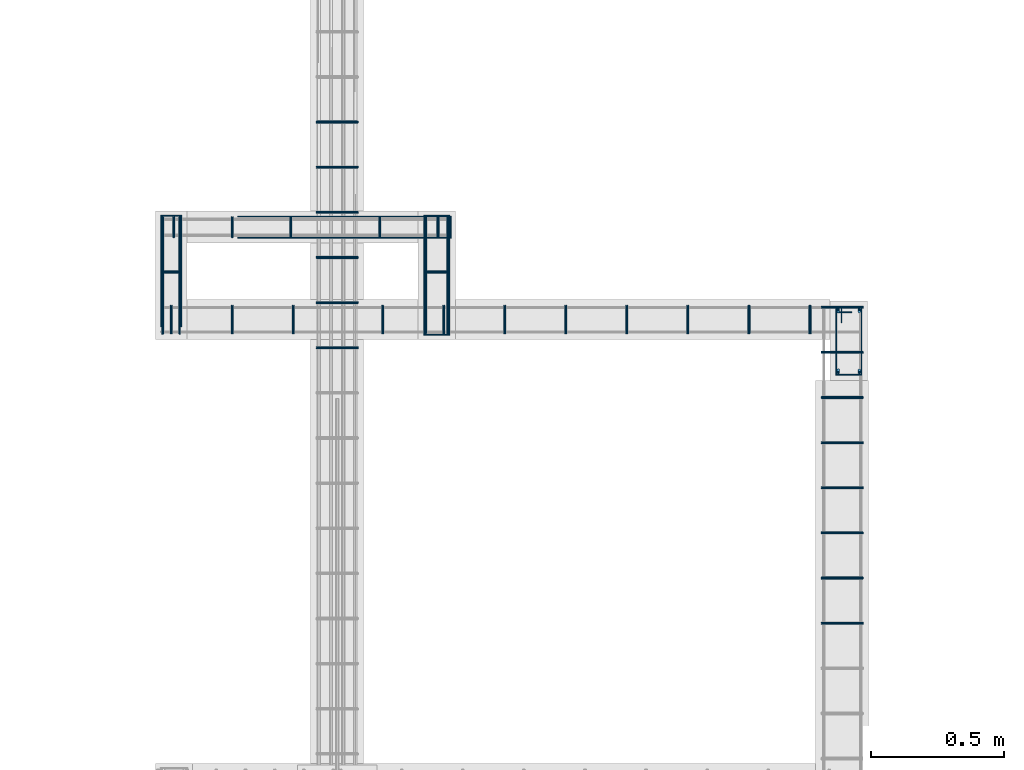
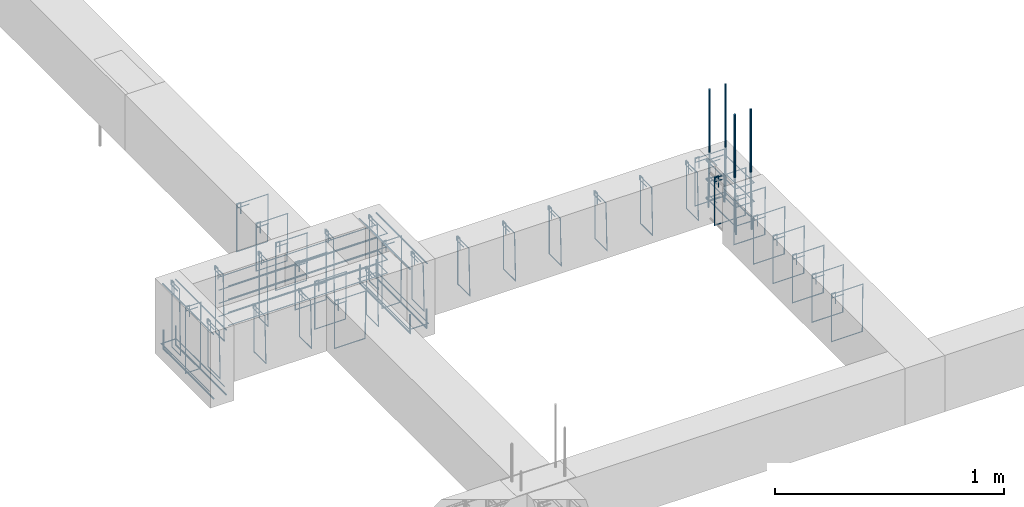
# One storey, part 75 of 150: 54 reinforcing bars.
"""IFC4 building model written with IfcOpenShell, lengths in centimetres."""

from ifc_helpers import new_model, entity, si_unit, derived_unit, frame, origin_with_axes, place, context, project, spatial, source, transform, mapped, element, save


model = new_model("IFC4")

# Units and contexts
model_context = context("Model", 3, precision=1e-05, world=origin_with_axes(), identifier="Body")
ifc_project = project(units=[si_unit("LENGTHUNIT", "METRE", prefix="CENTI"), si_unit("VOLUMEUNIT", "CUBIC_METRE"), si_unit("AREAUNIT", "SQUARE_METRE"), si_unit("POWERUNIT", "WATT"), si_unit("LUMINOUSFLUXUNIT", "LUMEN"), si_unit("ELECTRICCURRENTUNIT", "AMPERE"), si_unit("PRESSUREUNIT", "PASCAL", prefix="KILO"), si_unit("MASSUNIT", "GRAM", prefix="KILO"), si_unit("PLANEANGLEUNIT", "RADIAN"), derived_unit("VOLUMETRICFLOWRATEUNIT", [(si_unit("LENGTHUNIT", "METRE"), 3), (si_unit("TIMEUNIT", "SECOND"), -1)])], contexts=[model_context])

# Site, building, storey
site_placement = place(None, frame((-4000.0, 0.0, 0.0), z_axis=(0.0, 0.0, 1.0), x_axis=(1.0, 0.0, 0.0)))
site = spatial("IfcSite", under=ifc_project, at=site_placement, Name="PADRÃO")
building_placement = place(site_placement, frame((0.0, 0.0, -14.0)))
building = spatial("IfcBuilding", under=site, at=building_placement, Name="CRECHE PRÉ-ESCOLA TIPO 2")
placement = place(building_placement, origin_with_axes())
storey_placement = place(placement, frame((0.0, 0.0, 30.0), z_axis=(0.0, 0.0, 1.0), x_axis=(1.0, 0.0, 0.0)))
storey = spatial("IfcBuildingStorey", under=building, at=storey_placement, Name="VIGA BALDRAME", CompositionType="ELEMENT", Elevation=16.0)

# Reinforcing bars
shared_shape_1 = source(origin_with_axes(), model_context, "Body", "AdvancedSweptSolid", [
    entity("IfcSweptDiskSolid", entity("IfcCompositeCurve", [entity("IfcCompositeCurveSegment", "CONTINUOUS", True, entity("IfcPolyline", [entity("IfcCartesianPoint", [4.25, 21.75, 0.0]), entity("IfcCartesianPoint", [4.25, 27.75, 0.0])])), entity("IfcCompositeCurveSegment", "CONTINUOUS", True, entity("IfcPolyline", [entity("IfcCartesianPoint", [4.25, 27.75, 0.0]), entity("IfcCartesianPoint", [2.25, 27.75, 0.0])])), entity("IfcCompositeCurveSegment", "CONTINUOUS", True, entity("IfcPolyline", [entity("IfcCartesianPoint", [2.25, 27.75, 0.0]), entity("IfcCartesianPoint", [2.25, 2.25, 0.0])])), entity("IfcCompositeCurveSegment", "CONTINUOUS", True, entity("IfcPolyline", [entity("IfcCartesianPoint", [2.25, 2.25, 0.0]), entity("IfcCartesianPoint", [11.75, 2.25, 0.0])])), entity("IfcCompositeCurveSegment", "CONTINUOUS", True, entity("IfcPolyline", [entity("IfcCartesianPoint", [11.75, 2.25, 0.0]), entity("IfcCartesianPoint", [11.75, 27.75, -0.5])])), entity("IfcCompositeCurveSegment", "CONTINUOUS", True, entity("IfcPolyline", [entity("IfcCartesianPoint", [11.75, 27.75, -0.5]), entity("IfcCartesianPoint", [2.25, 27.75, -0.5])])), entity("IfcCompositeCurveSegment", "CONTINUOUS", True, entity("IfcPolyline", [entity("IfcCartesianPoint", [2.25, 27.75, -0.5]), entity("IfcCartesianPoint", [2.25, 25.75, -0.5])])), entity("IfcCompositeCurveSegment", "CONTINUOUS", True, entity("IfcPolyline", [entity("IfcCartesianPoint", [2.25, 25.75, -0.5]), entity("IfcCartesianPoint", [8.25, 25.75, -0.5])]))], False), 0.25),
])
for number, where, z_axis, x_axis, name in (
    (1, (2711.75, 1899.52, -5.0), (0.0, 0.0, 1.0), (1.0, 0.0, 0.0), "P90 - Estribo"),
    (2, (2711.75, 1899.52, -25.0), (0.0, 0.0, 1.0), (1.0, 0.0, 0.0), "P90 - Estribo"),
    (3, (2711.75, 1899.52, -15.0), (0.0, 0.0, 1.0), (1.0, 0.0, 0.0), "P90 - Estribo"),
):
    element("IfcReinforcingBar", number, at=place(storey_placement, frame(where, z_axis=z_axis, x_axis=x_axis)), inside=storey, Name=name, BarLength=0.0, CrossSectionArea=1.9634954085e-05, NominalDiameter=0.5, PredefinedType="MAIN", context=model_context, shape_type="MappedRepresentation", body=[
        mapped(shared_shape_1, transform((0.0, 0.0, 0.0), scale=1.0)),
    ])
shared_shape_2 = source(origin_with_axes(), model_context, "Body", "AdvancedSweptSolid", [
    entity("IfcSweptDiskSolid", entity("IfcCompositeCurve", [entity("IfcCompositeCurveSegment", "CONTINUOUS", True, entity("IfcPolyline", [entity("IfcCartesianPoint", [2.0, -6.0, 0.0]), entity("IfcCartesianPoint", [2.0, 0.0, 0.0])])), entity("IfcCompositeCurveSegment", "CONTINUOUS", True, entity("IfcPolyline", [entity("IfcCartesianPoint", [2.0, 0.0, 0.0]), entity("IfcCartesianPoint", [0.0, 0.0, 0.0])])), entity("IfcCompositeCurveSegment", "CONTINUOUS", True, entity("IfcPolyline", [entity("IfcCartesianPoint", [0.0, 0.0, 0.0]), entity("IfcCartesianPoint", [0.0, -25.5, 0.0])])), entity("IfcCompositeCurveSegment", "CONTINUOUS", True, entity("IfcPolyline", [entity("IfcCartesianPoint", [0.0, -25.5, 0.0]), entity("IfcCartesianPoint", [15.5, -25.5, 0.0])])), entity("IfcCompositeCurveSegment", "CONTINUOUS", True, entity("IfcPolyline", [entity("IfcCartesianPoint", [15.5, -25.5, 0.0]), entity("IfcCartesianPoint", [15.5, 0.0, 0.5])])), entity("IfcCompositeCurveSegment", "CONTINUOUS", True, entity("IfcPolyline", [entity("IfcCartesianPoint", [15.5, 0.0, 0.5]), entity("IfcCartesianPoint", [0.0, 0.0, 0.5])])), entity("IfcCompositeCurveSegment", "CONTINUOUS", True, entity("IfcPolyline", [entity("IfcCartesianPoint", [0.0, 0.0, 0.5]), entity("IfcCartesianPoint", [0.0, -2.0, 0.5])])), entity("IfcCompositeCurveSegment", "CONTINUOUS", True, entity("IfcPolyline", [entity("IfcCartesianPoint", [0.0, -2.0, 0.5]), entity("IfcCartesianPoint", [6.0, -2.0, 0.5])]))], False), 0.25),
])
for number, where, z_axis, x_axis, name in (
    (4, (2518.25, 1997.18, -2.25), (0.0, -1.0, 0.0), (1.0, 0.0, 0.0), "V196 - Estribo"),
    (5, (2518.25, 1980.18, -2.25), (0.0, -1.0, 0.0), (1.0, 0.0, 0.0), "V196 - Estribo"),
    (6, (2518.25, 1963.18, -2.25), (0.0, -1.0, 0.0), (1.0, 0.0, 0.0), "V196 - Estribo"),
    (7, (2518.25, 1946.18, -2.25), (0.0, -1.0, 0.0), (1.0, 0.0, 0.0), "V196 - Estribo"),
    (8, (2518.25, 1929.18, -2.25), (0.0, -1.0, 0.0), (1.0, 0.0, 0.0), "V196 - Estribo"),
    (9, (2518.25, 1912.18, -2.25), (0.0, -1.0, 0.0), (1.0, 0.0, 0.0), "V196 - Estribo"),
):
    element("IfcReinforcingBar", number, at=place(storey_placement, frame(where, z_axis=z_axis, x_axis=x_axis)), inside=storey, Name=name, BarLength=0.0, CrossSectionArea=1.9634954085e-05, NominalDiameter=0.5, PredefinedType="MAIN", context=model_context, shape_type="MappedRepresentation", body=[
        mapped(shared_shape_2, transform((0.0, 0.0, 0.0), scale=1.0)),
    ])
shared_shape_3 = source(origin_with_axes(), model_context, "Body", "AdvancedSweptSolid", [
    entity("IfcSweptDiskSolid", entity("IfcCompositeCurve", [entity("IfcCompositeCurveSegment", "CONTINUOUS", True, entity("IfcPolyline", [entity("IfcCartesianPoint", [2.0, -6.0, 0.0]), entity("IfcCartesianPoint", [2.0, 0.0, 0.0])])), entity("IfcCompositeCurveSegment", "CONTINUOUS", True, entity("IfcPolyline", [entity("IfcCartesianPoint", [2.0, 0.0, 0.0]), entity("IfcCartesianPoint", [0.0, 0.0, 0.0])])), entity("IfcCompositeCurveSegment", "CONTINUOUS", True, entity("IfcPolyline", [entity("IfcCartesianPoint", [0.0, 0.0, 0.0]), entity("IfcCartesianPoint", [0.0, -25.5, 0.0])])), entity("IfcCompositeCurveSegment", "CONTINUOUS", True, entity("IfcPolyline", [entity("IfcCartesianPoint", [0.0, -25.5, 0.0]), entity("IfcCartesianPoint", [15.5, -25.5, 0.0])])), entity("IfcCompositeCurveSegment", "CONTINUOUS", True, entity("IfcPolyline", [entity("IfcCartesianPoint", [15.5, -25.5, 0.0]), entity("IfcCartesianPoint", [15.5, 0.0, 0.5])])), entity("IfcCompositeCurveSegment", "CONTINUOUS", True, entity("IfcPolyline", [entity("IfcCartesianPoint", [15.5, 0.0, 0.5]), entity("IfcCartesianPoint", [0.0, 0.0, 0.5])])), entity("IfcCompositeCurveSegment", "CONTINUOUS", True, entity("IfcPolyline", [entity("IfcCartesianPoint", [0.0, 0.0, 0.5]), entity("IfcCartesianPoint", [0.0, -2.0, 0.5])])), entity("IfcCompositeCurveSegment", "CONTINUOUS", True, entity("IfcPolyline", [entity("IfcCartesianPoint", [0.0, -2.0, 0.5]), entity("IfcCartesianPoint", [6.0, -2.0, 0.5])]))], False), 0.25),
])
for number, where, z_axis, x_axis, name in (
    (10, (2708.5, 1859.43, -2.25), (0.0, -1.0, 0.0), (1.0, 0.0, 0.0), "V205 - Estribo"),
    (11, (2708.5, 1876.43, -2.25), (0.0, -1.0, 0.0), (1.0, 0.0, 0.0), "V205 - Estribo"),
    (12, (2708.5, 1893.43, -2.25), (0.0, -1.0, 0.0), (1.0, 0.0, 0.0), "V205 - Estribo"),
    (13, (2708.5, 1910.43, -2.25), (0.0, -1.0, 0.0), (1.0, 0.0, 0.0), "V205 - Estribo"),
    (14, (2708.5, 1842.43, -2.25), (0.0, -1.0, 0.0), (1.0, 0.0, 0.0), "V205 - Estribo"),
    (15, (2708.5, 1927.43, -2.25), (0.0, -1.0, 0.0), (1.0, 0.0, 0.0), "V205 - Estribo"),
    (16, (2708.5, 1808.43, -2.25), (0.0, -1.0, 0.0), (1.0, 0.0, 0.0), "V205 - Estribo"),
    (17, (2708.5, 1825.43, -2.25), (0.0, -1.0, 0.0), (1.0, 0.0, 0.0), "V205 - Estribo"),
):
    element("IfcReinforcingBar", number, at=place(storey_placement, frame(where, z_axis=z_axis, x_axis=x_axis)), inside=storey, Name=name, BarLength=0.0, CrossSectionArea=1.9634954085e-05, NominalDiameter=0.5, PredefinedType="MAIN", context=model_context, shape_type="MappedRepresentation", body=[
        mapped(shared_shape_3, transform((0.0, 0.0, 0.0), scale=1.0)),
    ])
shared_shape_4 = source(origin_with_axes(), model_context, "Body", "AdvancedSweptSolid", [
    entity("IfcSweptDiskSolid", entity("IfcCompositeCurve", [entity("IfcCompositeCurveSegment", "CONTINUOUS", True, entity("IfcPolyline", [entity("IfcCartesianPoint", [2.0, -6.0, 0.0]), entity("IfcCartesianPoint", [2.0, 0.0, 0.0])])), entity("IfcCompositeCurveSegment", "CONTINUOUS", True, entity("IfcPolyline", [entity("IfcCartesianPoint", [2.0, 0.0, 0.0]), entity("IfcCartesianPoint", [0.0, 0.0, 0.0])])), entity("IfcCompositeCurveSegment", "CONTINUOUS", True, entity("IfcPolyline", [entity("IfcCartesianPoint", [0.0, 0.0, 0.0]), entity("IfcCartesianPoint", [0.0, -35.5, 0.0])])), entity("IfcCompositeCurveSegment", "CONTINUOUS", True, entity("IfcPolyline", [entity("IfcCartesianPoint", [0.0, -35.5, 0.0]), entity("IfcCartesianPoint", [7.5, -35.5, 0.0])])), entity("IfcCompositeCurveSegment", "CONTINUOUS", True, entity("IfcPolyline", [entity("IfcCartesianPoint", [7.5, -35.5, 0.0]), entity("IfcCartesianPoint", [7.5, 0.0, 0.5])])), entity("IfcCompositeCurveSegment", "CONTINUOUS", True, entity("IfcPolyline", [entity("IfcCartesianPoint", [7.5, 0.0, 0.5]), entity("IfcCartesianPoint", [0.0, 0.0, 0.5])])), entity("IfcCompositeCurveSegment", "CONTINUOUS", True, entity("IfcPolyline", [entity("IfcCartesianPoint", [0.0, 0.0, 0.5]), entity("IfcCartesianPoint", [0.0, -2.0, 0.5])])), entity("IfcCompositeCurveSegment", "CONTINUOUS", True, entity("IfcPolyline", [entity("IfcCartesianPoint", [0.0, -2.0, 0.5]), entity("IfcCartesianPoint", [6.0, -2.0, 0.5])]))], False), 0.25),
])
for number, where, z_axis, x_axis, name in (
    (18, (2508.75, 1961.1, -2.25), (-1.0, 0.0, 0.0), (0.0, -1.0, 0.0), "V126 - Estribo"),
    (19, (2464.75, 1961.1, -2.25), (-1.0, 0.0, 0.0), (0.0, -1.0, 0.0), "V126 - Estribo"),
    (20, (2486.75, 1961.1, -2.25), (-1.0, 0.0, 0.0), (0.0, -1.0, 0.0), "V126 - Estribo"),
):
    element("IfcReinforcingBar", number, at=place(storey_placement, frame(where, z_axis=z_axis, x_axis=x_axis)), inside=storey, Name=name, BarLength=0.0, CrossSectionArea=1.9634954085e-05, NominalDiameter=0.5, PredefinedType="MAIN", context=model_context, shape_type="MappedRepresentation", body=[
        mapped(shared_shape_4, transform((0.0, 0.0, 0.0), scale=1.0)),
    ])
shared_shape_5 = source(origin_with_axes(), model_context, "Body", "AdvancedSweptSolid", [
    entity("IfcSweptDiskSolid", entity("IfcCompositeCurve", [entity("IfcCompositeCurveSegment", "CONTINUOUS", True, entity("IfcPolyline", [entity("IfcCartesianPoint", [2.0, -6.0, 0.0]), entity("IfcCartesianPoint", [2.0, 0.0, 0.0])])), entity("IfcCompositeCurveSegment", "CONTINUOUS", True, entity("IfcPolyline", [entity("IfcCartesianPoint", [2.0, 0.0, 0.0]), entity("IfcCartesianPoint", [0.0, 0.0, 0.0])])), entity("IfcCompositeCurveSegment", "CONTINUOUS", True, entity("IfcPolyline", [entity("IfcCartesianPoint", [0.0, 0.0, 0.0]), entity("IfcCartesianPoint", [0.0, -35.5, 0.0])])), entity("IfcCompositeCurveSegment", "CONTINUOUS", True, entity("IfcPolyline", [entity("IfcCartesianPoint", [0.0, -35.5, 0.0]), entity("IfcCartesianPoint", [7.5, -35.5, 0.0])])), entity("IfcCompositeCurveSegment", "CONTINUOUS", True, entity("IfcPolyline", [entity("IfcCartesianPoint", [7.5, -35.5, 0.0]), entity("IfcCartesianPoint", [7.5, 0.0, 0.5])])), entity("IfcCompositeCurveSegment", "CONTINUOUS", True, entity("IfcPolyline", [entity("IfcCartesianPoint", [7.5, 0.0, 0.5]), entity("IfcCartesianPoint", [0.0, 0.0, 0.5])])), entity("IfcCompositeCurveSegment", "CONTINUOUS", True, entity("IfcPolyline", [entity("IfcCartesianPoint", [0.0, 0.0, 0.5]), entity("IfcCartesianPoint", [0.0, -2.0, 0.5])])), entity("IfcCompositeCurveSegment", "CONTINUOUS", True, entity("IfcPolyline", [entity("IfcCartesianPoint", [0.0, -2.0, 0.5]), entity("IfcCartesianPoint", [6.0, -2.0, 0.5])]))], False), 0.25),
])
for number, where, z_axis, x_axis, name in (
    (21, (2564.25, 1961.1, -2.25), (-1.0, 0.0, 0.0), (0.0, -1.0, 0.0), "V126 - Estribo"),
    (22, (2542.25, 1961.1, -2.25), (-1.0, 0.0, 0.0), (0.0, -1.0, 0.0), "V126 - Estribo"),
):
    element("IfcReinforcingBar", number, at=place(storey_placement, frame(where, z_axis=z_axis, x_axis=x_axis)), inside=storey, Name=name, BarLength=0.0, CrossSectionArea=1.9634954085e-05, NominalDiameter=0.5, PredefinedType="MAIN", context=model_context, shape_type="MappedRepresentation", body=[
        mapped(shared_shape_5, transform((0.0, 0.0, 0.0), scale=1.0)),
    ])
shared_shape_6 = source(origin_with_axes(), model_context, "Body", "AdvancedSweptSolid", [
    entity("IfcSweptDiskSolid", entity("IfcCompositeCurve", [entity("IfcCompositeCurveSegment", "CONTINUOUS", True, entity("IfcPolyline", [entity("IfcCartesianPoint", [0.0, 0.0, 0.0]), entity("IfcCartesianPoint", [80.2013828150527, 0.0, 0.0])])), entity("IfcCompositeCurveSegment", "CONTINUOUS", True, entity("IfcPolyline", [entity("IfcCartesianPoint", [80.2013828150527, 0.0, 0.0]), entity("IfcCartesianPoint", [80.2013828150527, 8.0, 0.0])])), entity("IfcCompositeCurveSegment", "CONTINUOUS", True, entity("IfcPolyline", [entity("IfcCartesianPoint", [80.2013828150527, 8.0, 0.0]), entity("IfcCartesianPoint", [0.0, 8.0, 0.0])]))], False), 0.25),
])
for number, where, z_axis, x_axis, name in (
    (23, (2488.54861718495, 1953.35, -30.1), (0.0, 0.0, 1.0), (1.0, 0.0, 0.0), "V126 - Grampo"),
    (24, (2488.54861718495, 1953.35, -16.1), (0.0, 0.0, 1.0), (1.0, 0.0, 0.0), "V126 - Grampo"),
    (25, (2488.54861718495, 1953.35, -23.1), (0.0, 0.0, 1.0), (1.0, 0.0, 0.0), "V126 - Grampo"),
    (26, (2488.54861718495, 1953.35, -9.1), (0.0, 0.0, 1.0), (1.0, 0.0, 0.0), "V126 - Grampo"),
):
    element("IfcReinforcingBar", number, at=place(storey_placement, frame(where, z_axis=z_axis, x_axis=x_axis)), inside=storey, Name=name, BarLength=0.0, CrossSectionArea=1.9634954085e-05, NominalDiameter=0.5, PredefinedType="MAIN", context=model_context, shape_type="MappedRepresentation", body=[
        mapped(shared_shape_6, transform((0.0, 0.0, 0.0), scale=1.0)),
    ])
shared_shape_7 = source(origin_with_axes(), model_context, "Body", "AdvancedSweptSolid", [
    entity("IfcSweptDiskSolid", entity("IfcCompositeCurve", [entity("IfcCompositeCurveSegment", "CONTINUOUS", True, entity("IfcPolyline", [entity("IfcCartesianPoint", [2.0, -6.0, 0.0]), entity("IfcCartesianPoint", [2.0, 0.0, 0.0])])), entity("IfcCompositeCurveSegment", "CONTINUOUS", True, entity("IfcPolyline", [entity("IfcCartesianPoint", [2.0, 0.0, 0.0]), entity("IfcCartesianPoint", [0.0, 0.0, 0.0])])), entity("IfcCompositeCurveSegment", "CONTINUOUS", True, entity("IfcPolyline", [entity("IfcCartesianPoint", [0.0, 0.0, 0.0]), entity("IfcCartesianPoint", [0.0, -35.5, 0.0])])), entity("IfcCompositeCurveSegment", "CONTINUOUS", True, entity("IfcPolyline", [entity("IfcCartesianPoint", [0.0, -35.5, 0.0]), entity("IfcCartesianPoint", [7.5, -35.5, 0.0])])), entity("IfcCompositeCurveSegment", "CONTINUOUS", True, entity("IfcPolyline", [entity("IfcCartesianPoint", [7.5, -35.5, 0.0]), entity("IfcCartesianPoint", [7.5, 0.0, 0.5])])), entity("IfcCompositeCurveSegment", "CONTINUOUS", True, entity("IfcPolyline", [entity("IfcCartesianPoint", [7.5, 0.0, 0.5]), entity("IfcCartesianPoint", [0.0, 0.0, 0.5])])), entity("IfcCompositeCurveSegment", "CONTINUOUS", True, entity("IfcPolyline", [entity("IfcCartesianPoint", [0.0, 0.0, 0.5]), entity("IfcCartesianPoint", [0.0, -2.0, 0.5])])), entity("IfcCompositeCurveSegment", "CONTINUOUS", True, entity("IfcPolyline", [entity("IfcCartesianPoint", [0.0, -2.0, 0.5]), entity("IfcCartesianPoint", [6.0, -2.0, 0.5])]))], False), 0.25),
])
reinforcing_bar_1_placement = place(storey_placement, frame((2459.75, 1940.685, -2.25), z_axis=(0.0, -1.0, 0.0), x_axis=(1.0, 0.0, 0.0)))
element("IfcReinforcingBar", 27, at=reinforcing_bar_1_placement, inside=storey, Name="V195 - Estribo", BarLength=0.0, CrossSectionArea=1.9634954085e-05, NominalDiameter=0.5, PredefinedType="MAIN", context=model_context, shape_type="MappedRepresentation", body=[
    mapped(shared_shape_7, transform((0.0, 0.0, 0.0), scale=1.0)),
])
shared_shape_8 = source(origin_with_axes(), model_context, "Body", "AdvancedSweptSolid", [
    entity("IfcSweptDiskSolid", entity("IfcCompositeCurve", [entity("IfcCompositeCurveSegment", "CONTINUOUS", True, entity("IfcPolyline", [entity("IfcCartesianPoint", [0.0, 0.0, 0.0]), entity("IfcCartesianPoint", [0.0, 41.9159679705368, 0.0])])), entity("IfcCompositeCurveSegment", "CONTINUOUS", True, entity("IfcPolyline", [entity("IfcCartesianPoint", [0.0, 41.9159679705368, 0.0]), entity("IfcCartesianPoint", [-7.5, 41.9159679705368, 0.0])])), entity("IfcCompositeCurveSegment", "CONTINUOUS", True, entity("IfcPolyline", [entity("IfcCartesianPoint", [-7.5, 41.9159679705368, 0.0]), entity("IfcCartesianPoint", [-7.5, 0.0, 0.0])]))], False), 0.25),
])
reinforcing_bar_2_placement = place(storey_placement, frame((2467.25, 1919.68403202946, -34.6), z_axis=(0.0, 0.0, 1.0), x_axis=(1.0, 0.0, 0.0)))
element("IfcReinforcingBar", 28, at=reinforcing_bar_2_placement, inside=storey, Name="V195 - Grampo", BarLength=0.0, CrossSectionArea=1.9634954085e-05, NominalDiameter=0.5, PredefinedType="MAIN", context=model_context, shape_type="MappedRepresentation", body=[
    mapped(shared_shape_8, transform((0.0, 0.0, 0.0), scale=1.0)),
])
shared_shape_9 = source(origin_with_axes(), model_context, "Body", "AdvancedSweptSolid", [
    entity("IfcSweptDiskSolid", entity("IfcCompositeCurve", [entity("IfcCompositeCurveSegment", "CONTINUOUS", True, entity("IfcPolyline", [entity("IfcCartesianPoint", [2.0, -6.0, 0.0]), entity("IfcCartesianPoint", [2.0, 0.0, 0.0])])), entity("IfcCompositeCurveSegment", "CONTINUOUS", True, entity("IfcPolyline", [entity("IfcCartesianPoint", [2.0, 0.0, 0.0]), entity("IfcCartesianPoint", [0.0, 0.0, 0.0])])), entity("IfcCompositeCurveSegment", "CONTINUOUS", True, entity("IfcPolyline", [entity("IfcCartesianPoint", [0.0, 0.0, 0.0]), entity("IfcCartesianPoint", [0.0, -35.5, 0.0])])), entity("IfcCompositeCurveSegment", "CONTINUOUS", True, entity("IfcPolyline", [entity("IfcCartesianPoint", [0.0, -35.5, 0.0]), entity("IfcCartesianPoint", [9.5, -35.5, 0.0])])), entity("IfcCompositeCurveSegment", "CONTINUOUS", True, entity("IfcPolyline", [entity("IfcCartesianPoint", [9.5, -35.5, 0.0]), entity("IfcCartesianPoint", [9.5, 0.0, 0.5])])), entity("IfcCompositeCurveSegment", "CONTINUOUS", True, entity("IfcPolyline", [entity("IfcCartesianPoint", [9.5, 0.0, 0.5]), entity("IfcCartesianPoint", [0.0, 0.0, 0.5])])), entity("IfcCompositeCurveSegment", "CONTINUOUS", True, entity("IfcPolyline", [entity("IfcCartesianPoint", [0.0, 0.0, 0.5]), entity("IfcCartesianPoint", [0.0, -2.0, 0.5])])), entity("IfcCompositeCurveSegment", "CONTINUOUS", True, entity("IfcPolyline", [entity("IfcCartesianPoint", [0.0, -2.0, 0.5]), entity("IfcCartesianPoint", [6.0, -2.0, 0.5])]))], False), 0.25),
])
reinforcing_bar_3_placement = place(storey_placement, frame((2558.75, 1940.685, -2.25), z_axis=(0.0, -1.0, 0.0), x_axis=(1.0, 0.0, 0.0)))
element("IfcReinforcingBar", 29, at=reinforcing_bar_3_placement, inside=storey, Name="V197 - Estribo", BarLength=0.0, CrossSectionArea=1.9634954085e-05, NominalDiameter=0.5, PredefinedType="MAIN", context=model_context, shape_type="MappedRepresentation", body=[
    mapped(shared_shape_9, transform((0.0, 0.0, 0.0), scale=1.0)),
])
shared_shape_10 = source(origin_with_axes(), model_context, "Body", "AdvancedSweptSolid", [
    entity("IfcSweptDiskSolid", entity("IfcCompositeCurve", [entity("IfcCompositeCurveSegment", "CONTINUOUS", True, entity("IfcPolyline", [entity("IfcCartesianPoint", [0.0, 0.0, 0.0]), entity("IfcCartesianPoint", [0.0, -44.9159679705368, 0.0])])), entity("IfcCompositeCurveSegment", "CONTINUOUS", True, entity("IfcPolyline", [entity("IfcCartesianPoint", [0.0, -44.9159679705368, 0.0]), entity("IfcCartesianPoint", [9.5, -44.9159679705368, 0.0])])), entity("IfcCompositeCurveSegment", "CONTINUOUS", True, entity("IfcPolyline", [entity("IfcCartesianPoint", [9.5, -44.9159679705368, 0.0]), entity("IfcCartesianPoint", [9.5, 0.0, 0.0])]))], False), 0.25),
])
reinforcing_bar_4_placement = place(storey_placement, frame((2558.75, 1961.68596797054, -34.6), z_axis=(0.0, 0.0, 1.0), x_axis=(1.0, 0.0, 0.0)))
element("IfcReinforcingBar", 30, at=reinforcing_bar_4_placement, inside=storey, Name="V197 - Grampo", BarLength=0.0, CrossSectionArea=1.9634954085e-05, NominalDiameter=0.5, PredefinedType="MAIN", context=model_context, shape_type="MappedRepresentation", body=[
    mapped(shared_shape_10, transform((0.0, 0.0, 0.0), scale=1.0)),
])
shared_shape_11 = source(origin_with_axes(), model_context, "Body", "AdvancedSweptSolid", [
    entity("IfcSweptDiskSolid", entity("IfcCompositeCurve", [entity("IfcCompositeCurveSegment", "CONTINUOUS", True, entity("IfcPolyline", [entity("IfcCartesianPoint", [0.0, 0.0, 0.0]), entity("IfcCartesianPoint", [0.0, 41.9159679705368, 0.0])])), entity("IfcCompositeCurveSegment", "CONTINUOUS", True, entity("IfcPolyline", [entity("IfcCartesianPoint", [0.0, 41.9159679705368, 0.0]), entity("IfcCartesianPoint", [-9.5, 41.9159679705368, 0.0])])), entity("IfcCompositeCurveSegment", "CONTINUOUS", True, entity("IfcPolyline", [entity("IfcCartesianPoint", [-9.5, 41.9159679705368, 0.0]), entity("IfcCartesianPoint", [-9.5, 0.0, 0.0])]))], False), 0.25),
])
reinforcing_bar_5_placement = place(storey_placement, frame((2568.25, 1919.68403202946, -34.6), z_axis=(0.0, 0.0, 1.0), x_axis=(1.0, 0.0, 0.0)))
element("IfcReinforcingBar", 31, at=reinforcing_bar_5_placement, inside=storey, Name="V197 - Grampo", BarLength=0.0, CrossSectionArea=1.9634954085e-05, NominalDiameter=0.5, PredefinedType="MAIN", context=model_context, shape_type="MappedRepresentation", body=[
    mapped(shared_shape_11, transform((0.0, 0.0, 0.0), scale=1.0)),
])
shared_shape_12 = source(origin_with_axes(), model_context, "Body", "AdvancedSweptSolid", [
    entity("IfcSweptDiskSolid", entity("IfcCompositeCurve", [entity("IfcCompositeCurveSegment", "CONTINUOUS", True, entity("IfcPolyline", [entity("IfcCartesianPoint", [2.0, -6.0, 0.0]), entity("IfcCartesianPoint", [2.0, 0.0, 0.0])])), entity("IfcCompositeCurveSegment", "CONTINUOUS", True, entity("IfcPolyline", [entity("IfcCartesianPoint", [2.0, 0.0, 0.0]), entity("IfcCartesianPoint", [0.0, 0.0, 0.0])])), entity("IfcCompositeCurveSegment", "CONTINUOUS", True, entity("IfcPolyline", [entity("IfcCartesianPoint", [0.0, 0.0, 0.0]), entity("IfcCartesianPoint", [0.0, -25.5, 0.0])])), entity("IfcCompositeCurveSegment", "CONTINUOUS", True, entity("IfcPolyline", [entity("IfcCartesianPoint", [0.0, -25.5, 0.0]), entity("IfcCartesianPoint", [10.5, -25.5, 0.0])])), entity("IfcCompositeCurveSegment", "CONTINUOUS", True, entity("IfcPolyline", [entity("IfcCartesianPoint", [10.5, -25.5, 0.0]), entity("IfcCartesianPoint", [10.5, 0.0, 0.5])])), entity("IfcCompositeCurveSegment", "CONTINUOUS", True, entity("IfcPolyline", [entity("IfcCartesianPoint", [10.5, 0.0, 0.5]), entity("IfcCartesianPoint", [0.0, 0.0, 0.5])])), entity("IfcCompositeCurveSegment", "CONTINUOUS", True, entity("IfcPolyline", [entity("IfcCartesianPoint", [0.0, 0.0, 0.5]), entity("IfcCartesianPoint", [0.0, -2.0, 0.5])])), entity("IfcCompositeCurveSegment", "CONTINUOUS", True, entity("IfcPolyline", [entity("IfcCartesianPoint", [0.0, -2.0, 0.5]), entity("IfcCartesianPoint", [6.0, -2.0, 0.5])]))], False), 0.25),
])
for number, where, z_axis, x_axis, name in (
    (32, (2463.75, 1927.77, -2.25), (-1.0, 0.0, 0.0), (0.0, -1.0, 0.0), "V127 - Estribo"),
    (33, (2486.75, 1927.77, -2.25), (-1.0, 0.0, 0.0), (0.0, -1.0, 0.0), "V127 - Estribo"),
    (34, (2509.75, 1927.77, -2.25), (-1.0, 0.0, 0.0), (0.0, -1.0, 0.0), "V127 - Estribo"),
):
    element("IfcReinforcingBar", number, at=place(storey_placement, frame(where, z_axis=z_axis, x_axis=x_axis)), inside=storey, Name=name, BarLength=0.0, CrossSectionArea=1.9634954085e-05, NominalDiameter=0.5, PredefinedType="MAIN", context=model_context, shape_type="MappedRepresentation", body=[
        mapped(shared_shape_12, transform((0.0, 0.0, 0.0), scale=1.0)),
    ])
shared_shape_13 = source(origin_with_axes(), model_context, "Body", "AdvancedSweptSolid", [
    entity("IfcSweptDiskSolid", entity("IfcCompositeCurve", [entity("IfcCompositeCurveSegment", "CONTINUOUS", True, entity("IfcPolyline", [entity("IfcCartesianPoint", [2.0, -6.0, 0.0]), entity("IfcCartesianPoint", [2.0, 0.0, 0.0])])), entity("IfcCompositeCurveSegment", "CONTINUOUS", True, entity("IfcPolyline", [entity("IfcCartesianPoint", [2.0, 0.0, 0.0]), entity("IfcCartesianPoint", [0.0, 0.0, 0.0])])), entity("IfcCompositeCurveSegment", "CONTINUOUS", True, entity("IfcPolyline", [entity("IfcCartesianPoint", [0.0, 0.0, 0.0]), entity("IfcCartesianPoint", [0.0, -25.5, 0.0])])), entity("IfcCompositeCurveSegment", "CONTINUOUS", True, entity("IfcPolyline", [entity("IfcCartesianPoint", [0.0, -25.5, 0.0]), entity("IfcCartesianPoint", [10.5, -25.5, 0.0])])), entity("IfcCompositeCurveSegment", "CONTINUOUS", True, entity("IfcPolyline", [entity("IfcCartesianPoint", [10.5, -25.5, 0.0]), entity("IfcCartesianPoint", [10.5, 0.0, 0.5])])), entity("IfcCompositeCurveSegment", "CONTINUOUS", True, entity("IfcPolyline", [entity("IfcCartesianPoint", [10.5, 0.0, 0.5]), entity("IfcCartesianPoint", [0.0, 0.0, 0.5])])), entity("IfcCompositeCurveSegment", "CONTINUOUS", True, entity("IfcPolyline", [entity("IfcCartesianPoint", [0.0, 0.0, 0.5]), entity("IfcCartesianPoint", [0.0, -2.0, 0.5])])), entity("IfcCompositeCurveSegment", "CONTINUOUS", True, entity("IfcPolyline", [entity("IfcCartesianPoint", [0.0, -2.0, 0.5]), entity("IfcCartesianPoint", [6.0, -2.0, 0.5])]))], False), 0.25),
])
for number, where, z_axis, x_axis, name in (
    (35, (2543.375, 1927.77, -2.25), (-1.0, 0.0, 0.0), (0.0, -1.0, 0.0), "V127 - Estribo"),
    (36, (2589.375, 1927.77, -2.25), (-1.0, 0.0, 0.0), (0.0, -1.0, 0.0), "V127 - Estribo"),
    (37, (2566.375, 1927.77, -2.25), (-1.0, 0.0, 0.0), (0.0, -1.0, 0.0), "V127 - Estribo"),
    (38, (2635.375, 1927.77, -2.25), (-1.0, 0.0, 0.0), (0.0, -1.0, 0.0), "V127 - Estribo"),
    (39, (2704.375, 1927.77, -2.25), (-1.0, 0.0, 0.0), (0.0, -1.0, 0.0), "V127 - Estribo"),
    (40, (2681.375, 1927.77, -2.25), (-1.0, 0.0, 0.0), (0.0, -1.0, 0.0), "V127 - Estribo"),
    (41, (2612.375, 1927.77, -2.25), (-1.0, 0.0, 0.0), (0.0, -1.0, 0.0), "V127 - Estribo"),
    (42, (2658.375, 1927.77, -2.25), (-1.0, 0.0, 0.0), (0.0, -1.0, 0.0), "V127 - Estribo"),
):
    element("IfcReinforcingBar", number, at=place(storey_placement, frame(where, z_axis=z_axis, x_axis=x_axis)), inside=storey, Name=name, BarLength=0.0, CrossSectionArea=1.9634954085e-05, NominalDiameter=0.5, PredefinedType="MAIN", context=model_context, shape_type="MappedRepresentation", body=[
        mapped(shared_shape_13, transform((0.0, 0.0, 0.0), scale=1.0)),
    ])
reinforcing_bar_6_placement = place(storey_placement, frame((2722.75, 1926.01986122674, 33.3573001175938), z_axis=(0.0, 0.0, 1.0), x_axis=(1.0, 0.0, 0.0)))
element("IfcReinforcingBar", 43, at=reinforcing_bar_6_placement, inside=storey, Name="P90 - Longitudinal", BarLength=0.0, CrossSectionArea=7.853981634e-05, NominalDiameter=1.0, PredefinedType="MAIN", context=model_context, shape_type="AdvancedSweptSolid", body=[
    entity("IfcSweptDiskSolid", entity("IfcCompositeCurve", [entity("IfcCompositeCurveSegment", "CONTINUOUS", True, entity("IfcPolyline", [entity("IfcCartesianPoint", [0.0, 0.50013877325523, -63.3573001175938]), entity("IfcCartesianPoint", [0.0, -0.49986122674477, -33.3573001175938])])), entity("IfcCompositeCurveSegment", "CONTINUOUS", True, entity("IfcPolyline", [entity("IfcCartesianPoint", [0.0, -0.49986122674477, -33.3573001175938]), entity("IfcCartesianPoint", [0.0, -0.49986122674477, 0.0])]))], False), 0.5),
])
for number, where, z_axis, x_axis, name in (
    (44, (2722.75, 1903.02013877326, 33.3573001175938), (0.0, 0.0, 1.0), (1.0, 0.0, 0.0), "P90 - Longitudinal"),
    (45, (2714.75, 1903.02013877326, 33.3573001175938), (0.0, 0.0, 1.0), (1.0, 0.0, 0.0), "P90 - Longitudinal"),
):
    element("IfcReinforcingBar", number, at=place(storey_placement, frame(where, z_axis=z_axis, x_axis=x_axis)), inside=storey, Name=name, BarLength=0.0, CrossSectionArea=7.853981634e-05, NominalDiameter=1.0, PredefinedType="MAIN", context=model_context, shape_type="AdvancedSweptSolid", body=[
        entity("IfcSweptDiskSolid", entity("IfcCompositeCurve", [entity("IfcCompositeCurveSegment", "CONTINUOUS", True, entity("IfcPolyline", [entity("IfcCartesianPoint", [0.0, -0.50013877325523, -63.3573001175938]), entity("IfcCartesianPoint", [0.0, 0.49986122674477, -33.3573001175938])])), entity("IfcCompositeCurveSegment", "CONTINUOUS", True, entity("IfcPolyline", [entity("IfcCartesianPoint", [0.0, 0.49986122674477, -33.3573001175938]), entity("IfcCartesianPoint", [0.0, 0.49986122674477, 0.0])]))], False), 0.5),
    ])
reinforcing_bar_7_placement = place(storey_placement, frame((2714.75, 1926.01986122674, 33.3573001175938), z_axis=(0.0, 0.0, 1.0), x_axis=(1.0, 0.0, 0.0)))
element("IfcReinforcingBar", 46, at=reinforcing_bar_7_placement, inside=storey, Name="P90 - Longitudinal", BarLength=0.0, CrossSectionArea=7.853981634e-05, NominalDiameter=1.0, PredefinedType="MAIN", context=model_context, shape_type="AdvancedSweptSolid", body=[
    entity("IfcSweptDiskSolid", entity("IfcCompositeCurve", [entity("IfcCompositeCurveSegment", "CONTINUOUS", True, entity("IfcPolyline", [entity("IfcCartesianPoint", [0.0, 0.50013877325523, -63.3573001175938]), entity("IfcCartesianPoint", [0.0, -0.49986122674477, -33.3573001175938])])), entity("IfcCompositeCurveSegment", "CONTINUOUS", True, entity("IfcPolyline", [entity("IfcCartesianPoint", [0.0, -0.49986122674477, -33.3573001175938]), entity("IfcCartesianPoint", [0.0, -0.49986122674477, 0.0])]))], False), 0.5),
])
for number, where, z_axis, x_axis, name in (
    (47, (2460.25, 1939.185, -2.5), (0.0, 0.0, 1.0), (1.0, 0.0, 0.0), "V195 - Longitudinal construtiva"),
    (48, (2466.75, 1939.185, -2.5), (0.0, 0.0, 1.0), (1.0, 0.0, 0.0), "V195 - Longitudinal construtiva"),
):
    element("IfcReinforcingBar", number, at=place(storey_placement, frame(where, z_axis=z_axis, x_axis=x_axis)), inside=storey, Name=name, BarLength=0.0, CrossSectionArea=1.9634954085e-05, NominalDiameter=0.5, PredefinedType="MAIN", context=model_context, shape_type="AdvancedSweptSolid", body=[
        entity("IfcSweptDiskSolid", entity("IfcCompositeCurve", [entity("IfcCompositeCurveSegment", "CONTINUOUS", True, entity("IfcPolyline", [entity("IfcCartesianPoint", [0.0, -22.165, -0.25]), entity("IfcCartesianPoint", [0.0, 22.165, -0.25])]))], False), 0.25),
    ])
for number, where, z_axis, x_axis, name in (
    (49, (2460.4, 1939.1868751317, -27.1), (0.0, 0.0, 1.0), (1.0, 0.0, 0.0), "V195 - Longitudinal inferior"),
    (50, (2466.6, 1939.1868751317, -27.1), (0.0, 0.0, 1.0), (1.0, 0.0, 0.0), "V195 - Longitudinal inferior"),
):
    element("IfcReinforcingBar", number, at=place(storey_placement, frame(where, z_axis=z_axis, x_axis=x_axis)), inside=storey, Name=name, BarLength=0.0, CrossSectionArea=5.0265482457e-05, NominalDiameter=0.8, PredefinedType="MAIN", context=model_context, shape_type="AdvancedSweptSolid", body=[
        entity("IfcSweptDiskSolid", entity("IfcCompositeCurve", [entity("IfcCompositeCurveSegment", "CONTINUOUS", True, entity("IfcPolyline", [entity("IfcCartesianPoint", [0.0, -22.1668751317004, -10.0]), entity("IfcCartesianPoint", [0.0, 21.7631248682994, -10.0])])), entity("IfcCompositeCurveSegment", "CONTINUOUS", True, entity("IfcPolyline", [entity("IfcCartesianPoint", [0.0, 21.7631248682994, -10.0]), entity("IfcCartesianPoint", [0.0, 21.7631248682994, 0.0])]))], False), 0.4),
    ])
for number, where, z_axis, x_axis, name in (
    (51, (2559.25, 1939.185, -2.5), (0.0, 0.0, 1.0), (1.0, 0.0, 0.0), "V197 - Longitudinal construtiva"),
    (52, (2567.75, 1939.185, -2.5), (0.0, 0.0, 1.0), (1.0, 0.0, 0.0), "V197 - Longitudinal construtiva"),
):
    element("IfcReinforcingBar", number, at=place(storey_placement, frame(where, z_axis=z_axis, x_axis=x_axis)), inside=storey, Name=name, BarLength=0.0, CrossSectionArea=1.9634954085e-05, NominalDiameter=0.5, PredefinedType="MAIN", context=model_context, shape_type="AdvancedSweptSolid", body=[
        entity("IfcSweptDiskSolid", entity("IfcCompositeCurve", [entity("IfcCompositeCurveSegment", "CONTINUOUS", True, entity("IfcPolyline", [entity("IfcCartesianPoint", [0.0, -22.165, -0.25]), entity("IfcCartesianPoint", [0.0, 22.165, -0.25])]))], False), 0.25),
    ])
for number, where, z_axis, x_axis, name in (
    (53, (2559.4, 1939.185, -27.1), (0.0, 0.0, 1.0), (1.0, 0.0, 0.0), "V197 - Longitudinal inferior"),
    (54, (2567.6, 1939.185, -27.1), (0.0, 0.0, 1.0), (1.0, 0.0, 0.0), "V197 - Longitudinal inferior"),
):
    element("IfcReinforcingBar", number, at=place(storey_placement, frame(where, z_axis=z_axis, x_axis=x_axis)), inside=storey, Name=name, BarLength=0.0, CrossSectionArea=5.0265482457e-05, NominalDiameter=0.8, PredefinedType="MAIN", context=model_context, shape_type="AdvancedSweptSolid", body=[
        entity("IfcSweptDiskSolid", entity("IfcCompositeCurve", [entity("IfcCompositeCurveSegment", "CONTINUOUS", True, entity("IfcPolyline", [entity("IfcCartesianPoint", [0.0, -21.765, 0.0]), entity("IfcCartesianPoint", [0.0, -21.765, -10.0])])), entity("IfcCompositeCurveSegment", "CONTINUOUS", True, entity("IfcPolyline", [entity("IfcCartesianPoint", [0.0, -21.765, -10.0]), entity("IfcCartesianPoint", [0.0, 21.765, -10.0])])), entity("IfcCompositeCurveSegment", "CONTINUOUS", True, entity("IfcPolyline", [entity("IfcCartesianPoint", [0.0, 21.765, -10.0]), entity("IfcCartesianPoint", [0.0, 21.765, 0.0])]))], False), 0.4),
    ])

save(model, "model.ifc")
